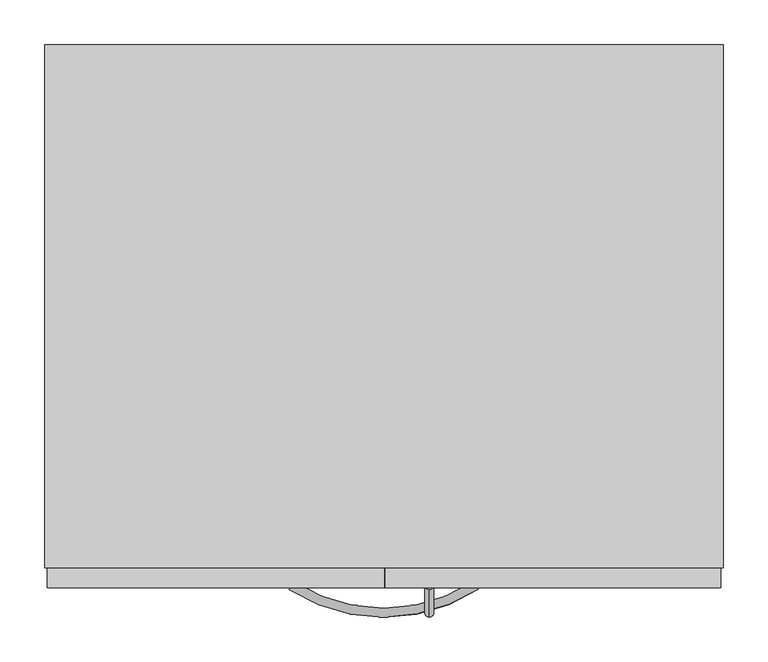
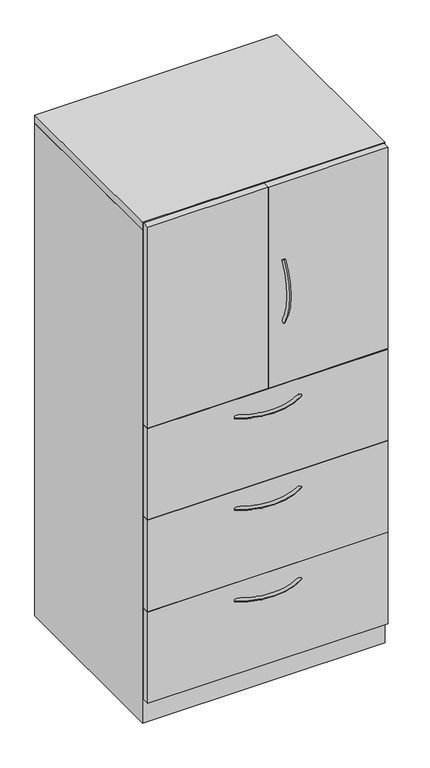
"""IFC4 building model written with IfcOpenShell, lengths in millimetres: furniture geometry, Steelcase - Universal Storage - Cabinet - Combination - Proud Steel : 65 1/2H - Hinged Doors/3 Drawers - 24D x 30W."""

from ifc_helpers import new_model, si_unit, point, frame, origin, place, context, project, spatial, polyline, circle_curve, ellipse_curve, trimmed, outline, extrude, faceted_brep, source, transform, mapped, element, save
from ifc_brep_helpers import plane_surface, revolved_surface, advanced_brep


def furniture_20c0aea2(model_context):
    return source(origin(), model_context, "Body", "SolidModel", [
        extrude(outline(polyline([(758.8225413, -479.552), (3.1725353, -479.552), (3.1725353, -457.3261219), (758.8225413, -457.3261219), (758.8225413, -479.552)])), frame((0.0, 0.0, 77.724), z_axis=(0.0, 0.0, 1.0), x_axis=(1.0, 0.0, 0.0)), (0.0, 0.0, 1.0), 303.276),
        extrude(outline(polyline([(758.8225413, -479.552), (3.1725353, -479.552), (3.1725353, -457.3261219), (758.8225413, -457.3261219), (758.8225413, -479.552)])), frame((0.0, 0.0, 382.524), z_axis=(0.0, 0.0, 1.0), x_axis=(1.0, 0.0, 0.0)), (0.0, 0.0, 1.0), 303.276),
        extrude(outline(polyline([(758.8225413, -479.552), (3.1725353, -479.552), (3.1725353, -457.3261219), (758.8225413, -457.3261219), (758.8225413, -479.552)])), frame((0.0, 0.0, 687.3240349), z_axis=(0.0, 0.0, 1.0), x_axis=(1.0, 0.0, 0.0)), (0.0, 0.0, 1.0), 303.2759651),
        extrude(outline(polyline([(381.0, -479.552), (3.1725353, -479.552), (3.1725353, -457.3261219), (381.0, -457.3261219), (381.0, -479.552)])), frame((0.0, 0.0, 992.5062596), z_axis=(0.0, 0.0, 1.0), x_axis=(1.0, 0.0, 0.0)), (0.0, 0.0, 1.0), 668.02),
        extrude(outline(polyline([(758.8225413, -479.552), (382.5239992, -479.552), (382.5239992, -457.3261219), (758.8225413, -457.3261219), (758.8225413, -479.552)])), frame((0.0, 0.0, 992.5062596), z_axis=(0.0, 0.0, 1.0), x_axis=(1.0, 0.0, 0.0)), (0.0, 0.0, 1.0), 668.02),
        advanced_brep(
        [(431.7682496, -481.5705994, 1404.643666), (431.7682496, -473.0108019, 1399.1705073), (431.7682496, -481.1337636, 1192.3367456), (431.7682496, -472.5965612, 1197.8450825)],
        [
            (0, 1, circle_curve(frame((431.7682496, -477.2907007, 1401.9070866), z_axis=(0.0, 0.5386967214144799, 0.842499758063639), x_axis=(0.0, 0.842499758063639, -0.5386967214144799)), 5.08)),
            (1, 0, circle_curve(frame((431.7682496, -477.2907007, 1401.9070866), z_axis=(0.0, 0.5386967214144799, 0.842499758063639), x_axis=(0.0, 0.842499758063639, -0.5386967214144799)), 5.08)),
            (2, 3, circle_curve(frame((431.7682496, -476.8651624, 1195.0909141), z_axis=(0.0, 0.5421591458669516, -0.8402758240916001), x_axis=(0.0, 0.8402758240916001, 0.5421591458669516)), 5.08)),
            (3, 2, circle_curve(frame((431.7682496, -476.8651624, 1195.0909141), z_axis=(0.0, 0.5421591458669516, -0.8402758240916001), x_axis=(0.0, 0.8402758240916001, 0.5421591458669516)), 5.08)),
            (3, 1, circle_curve(frame((431.7682496, -316.0827352, 1298.8302589), z_axis=(-1.0, 0.0, 0.0), x_axis=(0.0, -0.8424997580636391, 0.5386967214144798)), 186.2648211)),
            (0, 2, circle_curve(frame((431.7682496, -316.0827352, 1298.8302589), z_axis=(1.0, 0.0, 0.0), x_axis=(0.0, -0.8424997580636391, 0.5386967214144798)), 196.4248211)),
        ],
        [
            plane_surface(frame((432.5619996, -476.6365286, 1401.4888072), z_axis=(0.0, 0.5386967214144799, 0.8424997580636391), x_axis=(1.0, 0.0, 0.0))),
            plane_surface(frame((432.5619996, -476.2127171, 1195.511882), z_axis=(0.0, 0.5421591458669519, -0.8402758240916), x_axis=(1.0, 0.0, 0.0))),
            revolved_surface(trimmed(ellipse_curve(frame((431.7682496, -477.2907007, 1401.9070866), z_axis=(0.0, 0.5386967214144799, 0.842499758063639), x_axis=(0.0, 0.842499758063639, -0.5386967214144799)), 5.08, 5.08), [point((431.7682496, -481.5705994, 1404.643666))], [point((431.7682496, -473.0108019, 1399.1705073))], True, "CARTESIAN"), (432.5619996, -316.0827352, 1298.8302589), (1.0, 0.0, 0.0)),
            revolved_surface(trimmed(ellipse_curve(frame((431.7682496, -477.2907007, 1401.9070866), z_axis=(0.0, 0.5386967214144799, 0.842499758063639), x_axis=(0.0, 0.842499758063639, -0.5386967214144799)), 5.08, 5.08), [point((431.7682496, -473.0108019, 1399.1705073))], [point((431.7682496, -481.5705994, 1404.643666))], True, "CARTESIAN"), (432.5619996, -316.0827352, 1298.8302589), (1.0, 0.0, 0.0)),
        ],
        [
            (0, [[1, 2]]),
            (1, [[3, 4]]),
            (2, [[5, -1, 6, -4]]),
            (3, [[-6, -2, -5, -3]]),
        ],
    ),
        advanced_brep(
        [(274.4245932, -481.5705994, 323.56425), (279.8977519, -473.0108019, 323.56425), (486.7315136, -481.1337636, 323.56425), (481.2231767, -472.5965612, 323.56425)],
        [
            (0, 1, circle_curve(frame((277.1611726, -477.2907007, 323.56425), z_axis=(-0.8424997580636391, 0.5386967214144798, 0.0), x_axis=(0.5386967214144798, 0.8424997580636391, 0.0)), 5.08)),
            (1, 0, circle_curve(frame((277.1611726, -477.2907007, 323.56425), z_axis=(-0.8424997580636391, 0.5386967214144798, 0.0), x_axis=(0.5386967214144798, 0.8424997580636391, 0.0)), 5.08)),
            (2, 3, circle_curve(frame((483.9773452, -476.8651624, 323.56425), z_axis=(0.8402758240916, 0.5421591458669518, 0.0), x_axis=(-0.5421591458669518, 0.8402758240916, 0.0)), 5.08)),
            (3, 2, circle_curve(frame((483.9773452, -476.8651624, 323.56425), z_axis=(0.8402758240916, 0.5421591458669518, 0.0), x_axis=(-0.5421591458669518, 0.8402758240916, 0.0)), 5.08)),
            (3, 1, circle_curve(frame((380.2380004, -316.0827352, 323.56425), z_axis=(0.0, 0.0, -1.0), x_axis=(-0.5386967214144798, -0.8424997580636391, 0.0)), 186.2648211)),
            (0, 2, circle_curve(frame((380.2380004, -316.0827352, 323.56425), z_axis=(0.0, 0.0, 1.0), x_axis=(-0.5386967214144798, -0.8424997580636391, 0.0)), 196.4248211)),
        ],
        [
            plane_surface(frame((277.5794521, -476.6365286, 324.358), z_axis=(-0.8424997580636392, 0.5386967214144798, 0.0), x_axis=(0.0, 0.0, 1.0))),
            plane_surface(frame((483.5563772, -476.2127171, 324.358), z_axis=(0.8402758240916, 0.5421591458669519, 0.0), x_axis=(0.0, 0.0, 1.0))),
            revolved_surface(trimmed(ellipse_curve(frame((277.1611726, -477.2907007, 323.56425), z_axis=(-0.8424997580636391, 0.5386967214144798, 0.0), x_axis=(0.5386967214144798, 0.8424997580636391, 0.0)), 5.08, 5.08), [point((274.4245932, -481.5705994, 323.56425))], [point((279.8977519, -473.0108019, 323.56425))], True, "CARTESIAN"), (380.2380004, -316.0827352, 324.358), (0.0, 0.0, 1.0)),
            revolved_surface(trimmed(ellipse_curve(frame((277.1611726, -477.2907007, 323.56425), z_axis=(-0.8424997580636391, 0.5386967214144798, 0.0), x_axis=(0.5386967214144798, 0.8424997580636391, 0.0)), 5.08, 5.08), [point((279.8977519, -473.0108019, 323.56425))], [point((274.4245932, -481.5705994, 323.56425))], True, "CARTESIAN"), (380.2380004, -316.0827352, 324.358), (0.0, 0.0, 1.0)),
        ],
        [
            (0, [[1, 2]]),
            (1, [[3, 4]]),
            (2, [[5, -1, 6, -4]]),
            (3, [[-6, -2, -5, -3]]),
        ],
    ),
        advanced_brep(
        [(274.4245932, -481.5705994, 627.85625), (279.8977519, -473.0108019, 627.85625), (486.7315136, -481.1337636, 627.85625), (481.2231767, -472.5965612, 627.85625)],
        [
            (0, 1, circle_curve(frame((277.1611726, -477.2907007, 627.85625), z_axis=(-0.8424997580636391, 0.5386967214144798, 0.0), x_axis=(0.5386967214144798, 0.8424997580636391, 0.0)), 5.08)),
            (1, 0, circle_curve(frame((277.1611726, -477.2907007, 627.85625), z_axis=(-0.8424997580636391, 0.5386967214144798, 0.0), x_axis=(0.5386967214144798, 0.8424997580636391, 0.0)), 5.08)),
            (2, 3, circle_curve(frame((483.9773452, -476.8651624, 627.85625), z_axis=(0.8402758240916, 0.5421591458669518, 0.0), x_axis=(-0.5421591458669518, 0.8402758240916, 0.0)), 5.08)),
            (3, 2, circle_curve(frame((483.9773452, -476.8651624, 627.85625), z_axis=(0.8402758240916, 0.5421591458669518, 0.0), x_axis=(-0.5421591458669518, 0.8402758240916, 0.0)), 5.08)),
            (3, 1, circle_curve(frame((380.2380004, -316.0827352, 627.85625), z_axis=(0.0, 0.0, -1.0), x_axis=(-0.5386967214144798, -0.8424997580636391, 0.0)), 186.2648211)),
            (0, 2, circle_curve(frame((380.2380004, -316.0827352, 627.85625), z_axis=(0.0, 0.0, 1.0), x_axis=(-0.5386967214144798, -0.8424997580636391, 0.0)), 196.4248211)),
        ],
        [
            plane_surface(frame((277.5794521, -476.6365286, 628.65), z_axis=(-0.8424997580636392, 0.5386967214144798, 0.0), x_axis=(0.0, 0.0, 1.0))),
            plane_surface(frame((483.5563772, -476.2127171, 628.65), z_axis=(0.8402758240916, 0.5421591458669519, 0.0), x_axis=(0.0, 0.0, 1.0))),
            revolved_surface(trimmed(ellipse_curve(frame((277.1611726, -477.2907007, 627.85625), z_axis=(-0.8424997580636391, 0.5386967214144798, 0.0), x_axis=(0.5386967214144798, 0.8424997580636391, 0.0)), 5.08, 5.08), [point((274.4245932, -481.5705994, 627.85625))], [point((279.8977519, -473.0108019, 627.85625))], True, "CARTESIAN"), (380.2380004, -316.0827352, 628.65), (0.0, 0.0, 1.0)),
            revolved_surface(trimmed(ellipse_curve(frame((277.1611726, -477.2907007, 627.85625), z_axis=(-0.8424997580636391, 0.5386967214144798, 0.0), x_axis=(0.5386967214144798, 0.8424997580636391, 0.0)), 5.08, 5.08), [point((279.8977519, -473.0108019, 627.85625))], [point((274.4245932, -481.5705994, 627.85625))], True, "CARTESIAN"), (380.2380004, -316.0827352, 628.65), (0.0, 0.0, 1.0)),
        ],
        [
            (0, [[1, 2]]),
            (1, [[3, 4]]),
            (2, [[5, -1, 6, -4]]),
            (3, [[-6, -2, -5, -3]]),
        ],
    ),
        advanced_brep(
        [(274.4245932, -481.5705994, 932.65625), (279.8977519, -473.0108019, 932.65625), (486.7315136, -481.1337636, 932.65625), (481.2231767, -472.5965612, 932.65625)],
        [
            (0, 1, circle_curve(frame((277.1611726, -477.2907007, 932.65625), z_axis=(-0.8424997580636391, 0.5386967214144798, 0.0), x_axis=(0.5386967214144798, 0.8424997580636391, 0.0)), 5.08)),
            (1, 0, circle_curve(frame((277.1611726, -477.2907007, 932.65625), z_axis=(-0.8424997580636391, 0.5386967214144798, 0.0), x_axis=(0.5386967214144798, 0.8424997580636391, 0.0)), 5.08)),
            (2, 3, circle_curve(frame((483.9773452, -476.8651624, 932.65625), z_axis=(0.8402758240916, 0.5421591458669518, 0.0), x_axis=(-0.5421591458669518, 0.8402758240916, 0.0)), 5.08)),
            (3, 2, circle_curve(frame((483.9773452, -476.8651624, 932.65625), z_axis=(0.8402758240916, 0.5421591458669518, 0.0), x_axis=(-0.5421591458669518, 0.8402758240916, 0.0)), 5.08)),
            (3, 1, circle_curve(frame((380.2380004, -316.0827352, 932.65625), z_axis=(0.0, 0.0, -1.0), x_axis=(-0.5386967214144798, -0.8424997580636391, 0.0)), 186.2648211)),
            (0, 2, circle_curve(frame((380.2380004, -316.0827352, 932.65625), z_axis=(0.0, 0.0, 1.0), x_axis=(-0.5386967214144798, -0.8424997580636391, 0.0)), 196.4248211)),
        ],
        [
            plane_surface(frame((277.5794521, -476.6365286, 933.45), z_axis=(-0.8424997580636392, 0.5386967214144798, 0.0), x_axis=(0.0, 0.0, 1.0))),
            plane_surface(frame((483.5563772, -476.2127171, 933.45), z_axis=(0.8402758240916, 0.5421591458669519, 0.0), x_axis=(0.0, 0.0, 1.0))),
            revolved_surface(trimmed(ellipse_curve(frame((277.1611726, -477.2907007, 932.65625), z_axis=(-0.8424997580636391, 0.5386967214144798, 0.0), x_axis=(0.5386967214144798, 0.8424997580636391, 0.0)), 5.08, 5.08), [point((274.4245932, -481.5705994, 932.65625))], [point((279.8977519, -473.0108019, 932.65625))], True, "CARTESIAN"), (380.2380004, -316.0827352, 933.45), (0.0, 0.0, 1.0)),
            revolved_surface(trimmed(ellipse_curve(frame((277.1611726, -477.2907007, 932.65625), z_axis=(-0.8424997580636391, 0.5386967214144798, 0.0), x_axis=(0.5386967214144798, 0.8424997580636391, 0.0)), 5.08, 5.08), [point((279.8977519, -473.0108019, 932.65625))], [point((274.4245932, -481.5705994, 932.65625))], True, "CARTESIAN"), (380.2380004, -316.0827352, 933.45), (0.0, 0.0, 1.0)),
        ],
        [
            (0, [[1, 2]]),
            (1, [[3, 4]]),
            (2, [[5, -1, 6, -4]]),
            (3, [[-6, -2, -5, -3]]),
        ],
    ),
        faceted_brep([(25.4000008, -457.3261219, 76.2), (736.6000242, -457.3261219, 76.2), (736.6000242, 104.6479992, 76.2), (25.4000008, 104.6479992, 76.2), (762.0, 130.048, 0.0), (762.0, -457.3261219, 0.0), (0.0, -457.3261219, 0.0), (0.0, 130.048, 0.0), (0.0, 130.048, 1636.776), (762.0, 130.048, 1636.776), (0.0, -457.3261219, 1636.776), (762.0, -457.3261219, 1636.776), (736.6000242, -457.3261219, 1636.776), (25.4000008, -457.3261219, 1636.776), (736.6000242, 104.6479992, 1636.776), (25.4000008, 104.6479992, 1636.776)], [[[0, 1, 2, 3]], [[4, 5, 6, 7]], [[4, 7, 8, 9]], [[8, 7, 6, 10]], [[10, 6, 5, 11, 12, 1, 0, 13]], [[11, 5, 4, 9]], [[14, 12, 11, 9, 8, 10, 13, 15]], [[12, 14, 2, 1]], [[15, 13, 0, 3]], [[14, 15, 3, 2]]]),
        extrude(outline(polyline([(762.0, 130.048), (762.0, -457.3261219), (0.0, -457.3261219), (0.0, 130.048), (762.0, 130.048)])), frame((0.0, 0.0, 1638.2999516), z_axis=(0.0, 0.0, 1.0), x_axis=(1.0, 0.0, 0.0)), (0.0, 0.0, 1.0), 25.4000484),
    ])


if __name__ == "__main__":
    model = new_model("IFC4")
    model_context = context("Model", 3, world=origin())
    ifc_project = project(units=[si_unit("LENGTHUNIT", "METRE", prefix="MILLI")], contexts=[model_context])
    site = spatial("IfcSite", under=ifc_project)
    building = spatial("IfcBuilding", under=site)
    placement = place(None, origin())
    furniture_shape = furniture_20c0aea2(model_context)
    element("IfcFurniture", 1, ObjectType="Steelcase - Universal Storage - Cabinet - Combination - Proud Steel : 65 1/2H - Hinged Doors/3 Drawers - 24D x 30W", at=placement, inside=building, context=model_context, shape_type="MappedRepresentation", body=[
        mapped(furniture_shape, transform((0.0, 0.0, 0.0), x_axis=(1.0, 0.0, 0.0), y_axis=(0.0, 1.0, 0.0), z_axis=(0.0, 0.0, 1.0))),
    ])
    save(model, "model.ifc")
